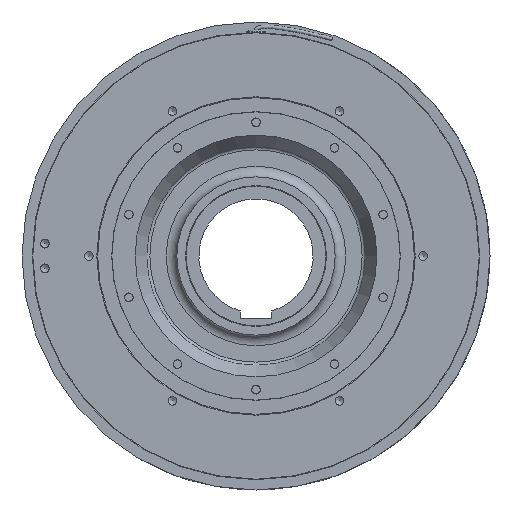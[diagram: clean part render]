
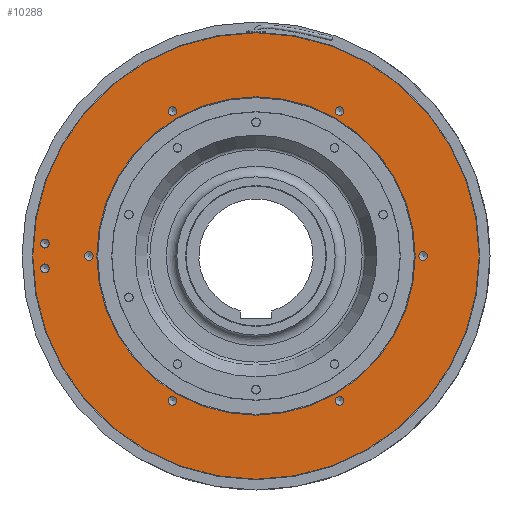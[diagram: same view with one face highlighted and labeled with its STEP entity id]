
A CAD part, left-side view. The second image highlights one B-rep face of the part: STEP entity #10288.
In plain terms, the highlighted planar face has unit normal (-1, 0, 0).
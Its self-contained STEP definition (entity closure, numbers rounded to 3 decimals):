
#179=FACE_BOUND('',#1099,.T.);
#180=FACE_BOUND('',#1100,.T.);
#181=FACE_BOUND('',#1101,.T.);
#182=FACE_BOUND('',#1102,.T.);
#183=FACE_BOUND('',#1103,.T.);
#184=FACE_BOUND('',#1104,.T.);
#185=FACE_BOUND('',#1105,.T.);
#186=FACE_BOUND('',#1106,.T.);
#187=FACE_BOUND('',#1107,.T.);
#355=PLANE('',#10938);
#542=FACE_OUTER_BOUND('',#1098,.T.);
#1098=EDGE_LOOP('',(#6597,#6598,#6599));
#1099=EDGE_LOOP('',(#6600,#6601));
#1100=EDGE_LOOP('',(#6602,#6603));
#1101=EDGE_LOOP('',(#6604,#6605));
#1102=EDGE_LOOP('',(#6606,#6607));
#1103=EDGE_LOOP('',(#6608,#6609));
#1104=EDGE_LOOP('',(#6610,#6611));
#1105=EDGE_LOOP('',(#6612,#6613));
#1106=EDGE_LOOP('',(#6614,#6615));
#1107=EDGE_LOOP('',(#6616));
#1773=CIRCLE('',#10827,126.85);
#1774=CIRCLE('',#10828,126.85);
#1812=CIRCLE('',#10887,2.459);
#1813=CIRCLE('',#10888,2.459);
#1816=CIRCLE('',#10893,2.459);
#1817=CIRCLE('',#10894,2.459);
#1822=CIRCLE('',#10902,2.459);
#1823=CIRCLE('',#10903,2.459);
#1826=CIRCLE('',#10908,2.459);
#1827=CIRCLE('',#10909,2.459);
#1830=CIRCLE('',#10914,2.459);
#1831=CIRCLE('',#10915,2.459);
#1834=CIRCLE('',#10920,2.459);
#1835=CIRCLE('',#10921,2.459);
#1838=CIRCLE('',#10926,2.459);
#1839=CIRCLE('',#10927,2.459);
#1842=CIRCLE('',#10932,2.459);
#1843=CIRCLE('',#10933,2.459);
#1846=CIRCLE('',#10937,90.5);
#1847=CIRCLE('',#10939,126.85);
#3771=VERTEX_POINT('',#15899);
#3772=VERTEX_POINT('',#15901);
#3773=VERTEX_POINT('',#15903);
#3807=VERTEX_POINT('',#16451);
#3808=VERTEX_POINT('',#16452);
#3811=VERTEX_POINT('',#16463);
#3812=VERTEX_POINT('',#16464);
#3818=VERTEX_POINT('',#16482);
#3819=VERTEX_POINT('',#16483);
#3823=VERTEX_POINT('',#16495);
#3824=VERTEX_POINT('',#16496);
#3828=VERTEX_POINT('',#16508);
#3829=VERTEX_POINT('',#16509);
#3833=VERTEX_POINT('',#16521);
#3834=VERTEX_POINT('',#16522);
#3838=VERTEX_POINT('',#16534);
#3839=VERTEX_POINT('',#16535);
#3843=VERTEX_POINT('',#16547);
#3844=VERTEX_POINT('',#16548);
#3847=VERTEX_POINT('',#16557);
#4838=EDGE_CURVE('',#3772,#3771,#1773,.T.);
#4839=EDGE_CURVE('',#3773,#3772,#1774,.T.);
#4900=EDGE_CURVE('',#3807,#3808,#1812,.T.);
#4901=EDGE_CURVE('',#3808,#3807,#1813,.T.);
#4906=EDGE_CURVE('',#3811,#3812,#1816,.T.);
#4907=EDGE_CURVE('',#3812,#3811,#1817,.T.);
#4915=EDGE_CURVE('',#3818,#3819,#1822,.T.);
#4916=EDGE_CURVE('',#3819,#3818,#1823,.T.);
#4921=EDGE_CURVE('',#3823,#3824,#1826,.T.);
#4922=EDGE_CURVE('',#3824,#3823,#1827,.T.);
#4927=EDGE_CURVE('',#3828,#3829,#1830,.T.);
#4928=EDGE_CURVE('',#3829,#3828,#1831,.T.);
#4933=EDGE_CURVE('',#3833,#3834,#1834,.T.);
#4934=EDGE_CURVE('',#3834,#3833,#1835,.T.);
#4939=EDGE_CURVE('',#3838,#3839,#1838,.T.);
#4940=EDGE_CURVE('',#3839,#3838,#1839,.T.);
#4945=EDGE_CURVE('',#3843,#3844,#1842,.T.);
#4946=EDGE_CURVE('',#3844,#3843,#1843,.T.);
#4951=EDGE_CURVE('',#3847,#3847,#1846,.T.);
#4952=EDGE_CURVE('',#3771,#3773,#1847,.T.);
#6597=ORIENTED_EDGE('',*,*,#4838,.T.);
#6598=ORIENTED_EDGE('',*,*,#4952,.T.);
#6599=ORIENTED_EDGE('',*,*,#4839,.T.);
#6600=ORIENTED_EDGE('',*,*,#4900,.T.);
#6601=ORIENTED_EDGE('',*,*,#4901,.T.);
#6602=ORIENTED_EDGE('',*,*,#4906,.T.);
#6603=ORIENTED_EDGE('',*,*,#4907,.T.);
#6604=ORIENTED_EDGE('',*,*,#4915,.T.);
#6605=ORIENTED_EDGE('',*,*,#4916,.T.);
#6606=ORIENTED_EDGE('',*,*,#4921,.T.);
#6607=ORIENTED_EDGE('',*,*,#4922,.T.);
#6608=ORIENTED_EDGE('',*,*,#4927,.T.);
#6609=ORIENTED_EDGE('',*,*,#4928,.T.);
#6610=ORIENTED_EDGE('',*,*,#4933,.T.);
#6611=ORIENTED_EDGE('',*,*,#4934,.T.);
#6612=ORIENTED_EDGE('',*,*,#4939,.T.);
#6613=ORIENTED_EDGE('',*,*,#4940,.T.);
#6614=ORIENTED_EDGE('',*,*,#4945,.T.);
#6615=ORIENTED_EDGE('',*,*,#4946,.T.);
#6616=ORIENTED_EDGE('',*,*,#4951,.F.);
#10288=ADVANCED_FACE('',(#542,#179,#180,#181,#182,#183,#184,#185,#186,#187),
#355,.T.);
#10827=AXIS2_PLACEMENT_3D('',#15902,#12350,#12351);
#10828=AXIS2_PLACEMENT_3D('',#15904,#12352,#12353);
#10887=AXIS2_PLACEMENT_3D('',#16453,#12483,#12484);
#10888=AXIS2_PLACEMENT_3D('',#16454,#12485,#12486);
#10893=AXIS2_PLACEMENT_3D('',#16465,#12497,#12498);
#10894=AXIS2_PLACEMENT_3D('',#16466,#12499,#12500);
#10902=AXIS2_PLACEMENT_3D('',#16484,#12518,#12519);
#10903=AXIS2_PLACEMENT_3D('',#16485,#12520,#12521);
#10908=AXIS2_PLACEMENT_3D('',#16497,#12532,#12533);
#10909=AXIS2_PLACEMENT_3D('',#16498,#12534,#12535);
#10914=AXIS2_PLACEMENT_3D('',#16510,#12546,#12547);
#10915=AXIS2_PLACEMENT_3D('',#16511,#12548,#12549);
#10920=AXIS2_PLACEMENT_3D('',#16523,#12560,#12561);
#10921=AXIS2_PLACEMENT_3D('',#16524,#12562,#12563);
#10926=AXIS2_PLACEMENT_3D('',#16536,#12574,#12575);
#10927=AXIS2_PLACEMENT_3D('',#16537,#12576,#12577);
#10932=AXIS2_PLACEMENT_3D('',#16549,#12588,#12589);
#10933=AXIS2_PLACEMENT_3D('',#16550,#12590,#12591);
#10937=AXIS2_PLACEMENT_3D('',#16559,#12600,#12601);
#10938=AXIS2_PLACEMENT_3D('',#16560,#12602,#12603);
#10939=AXIS2_PLACEMENT_3D('',#16561,#12604,#12605);
#12350=DIRECTION('center_axis',(-1.,0.,0.));
#12351=DIRECTION('ref_axis',(0.,1.,0.));
#12352=DIRECTION('center_axis',(-1.,0.,0.));
#12353=DIRECTION('ref_axis',(0.,1.,0.));
#12483=DIRECTION('center_axis',(1.,0.,0.));
#12484=DIRECTION('ref_axis',(0.,0.,
1.));
#12485=DIRECTION('center_axis',(1.,0.,0.));
#12486=DIRECTION('ref_axis',(0.,0.,
1.));
#12497=DIRECTION('center_axis',(1.,0.,0.));
#12498=DIRECTION('ref_axis',(0.,0.,
1.));
#12499=DIRECTION('center_axis',(1.,0.,0.));
#12500=DIRECTION('ref_axis',(0.,0.,
1.));
#12518=DIRECTION('center_axis',(1.,0.,0.));
#12519=DIRECTION('ref_axis',(0.,0.,
1.));
#12520=DIRECTION('center_axis',(1.,0.,0.));
#12521=DIRECTION('ref_axis',(0.,0.,
1.));
#12532=DIRECTION('center_axis',(1.,0.,0.));
#12533=DIRECTION('ref_axis',(0.,0.,
1.));
#12534=DIRECTION('center_axis',(1.,0.,0.));
#12535=DIRECTION('ref_axis',(0.,0.,
1.));
#12546=DIRECTION('center_axis',(1.,0.,0.));
#12547=DIRECTION('ref_axis',(0.,0.,
1.));
#12548=DIRECTION('center_axis',(1.,0.,0.));
#12549=DIRECTION('ref_axis',(0.,0.,
1.));
#12560=DIRECTION('center_axis',(1.,0.,0.));
#12561=DIRECTION('ref_axis',(0.,0.,
1.));
#12562=DIRECTION('center_axis',(1.,0.,0.));
#12563=DIRECTION('ref_axis',(0.,0.,
1.));
#12574=DIRECTION('center_axis',(1.,0.,0.));
#12575=DIRECTION('ref_axis',(0.,0.,
1.));
#12576=DIRECTION('center_axis',(1.,0.,0.));
#12577=DIRECTION('ref_axis',(0.,0.,
1.));
#12588=DIRECTION('center_axis',(1.,0.,0.));
#12589=DIRECTION('ref_axis',(0.,0.,
1.));
#12590=DIRECTION('center_axis',(1.,0.,0.));
#12591=DIRECTION('ref_axis',(0.,0.,
1.));
#12600=DIRECTION('center_axis',(-1.,0.,0.));
#12601=DIRECTION('ref_axis',(0.,-1.,0.));
#12602=DIRECTION('center_axis',(-1.,0.,0.));
#12603=DIRECTION('ref_axis',(0.,0.,
1.));
#12604=DIRECTION('center_axis',(-1.,0.,0.));
#12605=DIRECTION('ref_axis',(0.,1.,0.));
#15899=CARTESIAN_POINT('',(-19.,-126.85,0.));
#15901=CARTESIAN_POINT('',(-19.,126.85,0.));
#15902=CARTESIAN_POINT('Origin',(-19.,0.,0.));
#15903=CARTESIAN_POINT('',(-19.,0.,126.85));
#15904=CARTESIAN_POINT('Origin',(-19.,0.,0.));
#16451=CARTESIAN_POINT('',(-19.,120.,9.459));
#16452=CARTESIAN_POINT('',(-19.,120.,4.542));
#16453=CARTESIAN_POINT('Origin',(-19.,120.,7.));
#16454=CARTESIAN_POINT('Origin',(-19.,120.,7.));
#16463=CARTESIAN_POINT('',(-19.,120.,-4.542));
#16464=CARTESIAN_POINT('',(-19.,120.,-9.459));
#16465=CARTESIAN_POINT('Origin',(-19.,120.,-7.));
#16466=CARTESIAN_POINT('Origin',(-19.,120.,-7.));
#16482=CARTESIAN_POINT('',(-19.,47.5,84.731));
#16483=CARTESIAN_POINT('',(-19.,47.5,79.814));
#16484=CARTESIAN_POINT('Origin',(-19.,47.5,82.272));
#16485=CARTESIAN_POINT('Origin',(-19.,47.5,82.272));
#16495=CARTESIAN_POINT('',(-19.,-47.5,84.731));
#16496=CARTESIAN_POINT('',(-19.,-47.5,79.814));
#16497=CARTESIAN_POINT('Origin',(-19.,-47.5,82.272));
#16498=CARTESIAN_POINT('Origin',(-19.,-47.5,82.272));
#16508=CARTESIAN_POINT('',(-19.,-95.,2.458));
#16509=CARTESIAN_POINT('',(-19.,-95.,-2.459));
#16510=CARTESIAN_POINT('Origin',(-19.,-95.,0.));
#16511=CARTESIAN_POINT('Origin',(-19.,-95.,0.));
#16521=CARTESIAN_POINT('',(-19.,-47.5,-79.814));
#16522=CARTESIAN_POINT('',(-19.,-47.5,-84.731));
#16523=CARTESIAN_POINT('Origin',(-19.,-47.5,-82.272));
#16524=CARTESIAN_POINT('Origin',(-19.,-47.5,-82.272));
#16534=CARTESIAN_POINT('',(-19.,47.5,-79.814));
#16535=CARTESIAN_POINT('',(-19.,47.5,-84.731));
#16536=CARTESIAN_POINT('Origin',(-19.,47.5,-82.272));
#16537=CARTESIAN_POINT('Origin',(-19.,47.5,-82.272));
#16547=CARTESIAN_POINT('',(-19.,95.,2.459));
#16548=CARTESIAN_POINT('',(-19.,95.,-2.459));
#16549=CARTESIAN_POINT('Origin',(-19.,95.,0.));
#16550=CARTESIAN_POINT('Origin',(-19.,95.,0.));
#16557=CARTESIAN_POINT('',(-19.,90.5,0.));
#16559=CARTESIAN_POINT('Origin',(-19.,0.,0.));
#16560=CARTESIAN_POINT('Origin',(-19.,108.425,0.));
#16561=CARTESIAN_POINT('Origin',(-19.,0.,0.));
